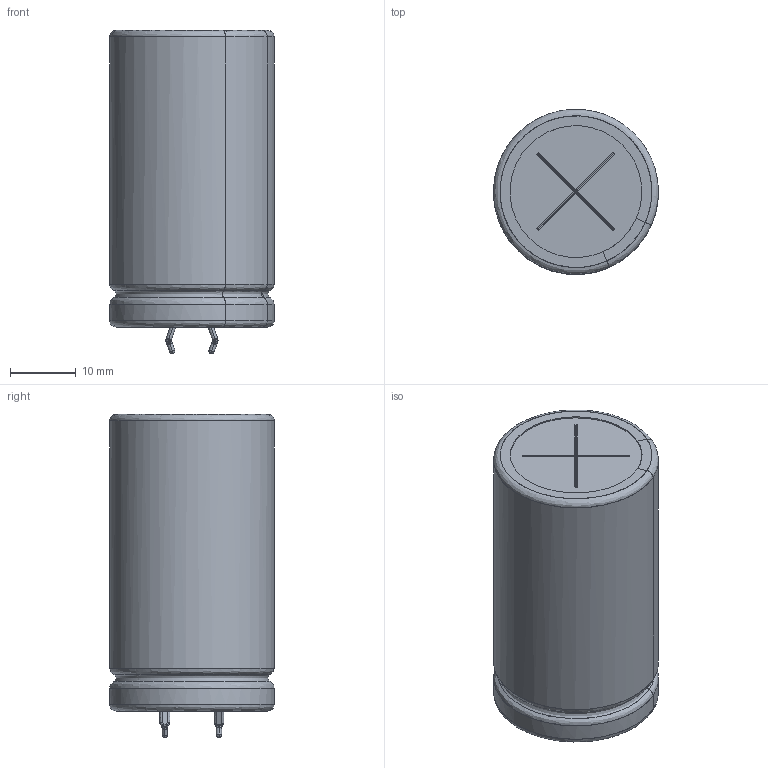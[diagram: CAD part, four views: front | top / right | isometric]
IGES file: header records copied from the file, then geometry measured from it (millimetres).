
Start section: JAMA-IS VERSION  1.0
Bounding box: 24.98 x 24.98 x 49.02 mm (x, y, z)
Surface area: 12294.9 mm2 (no closed solid volume)
Topology: 0 solids, 0 shells, 208 faces, 2226 edges, 2190 vertices
Faces by surface type: bspline 208
